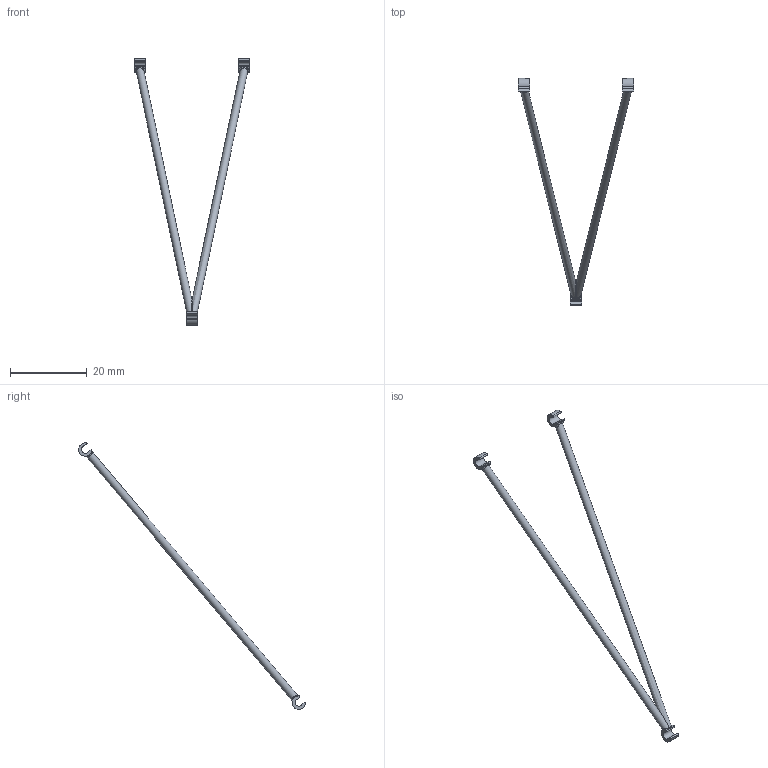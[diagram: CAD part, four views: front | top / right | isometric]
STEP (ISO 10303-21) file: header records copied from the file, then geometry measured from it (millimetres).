
FILE_DESCRIPTION(/* description */ ('','CAx-IF Rec.Pracs.---Representation and Presentation of Product Manufacturing Information (PMI)---4.0---2014-10-13'),/* implementation_level */ '2;1');
FILE_NAME(/* name */ '20elcomaststay103.step',/* time_stamp */ '2025-03-10T16:18:45+11:00',/* author */ (''),/* organization */ (''),/* preprocessor_version */ 'ST-DEVELOPER v20',/* originating_system */ 'Autodesk Translation Framework v13.20.0.188',/* authorisation */ '');
FILE_SCHEMA (('AP242_MANAGED_MODEL_BASED_3D_ENGINEERING_MIM_LF { 1 0 10303 442 1 1 4 }'));
Length unit declared in the file: millimetre
Products named in the file (2): Elco Radar Mast solid; Component1
Assembly tree (1 placements, depth 2):
  Elco Radar Mast solid
    Component1
Bounding box: 30.21 x 59.13 x 69.45 mm (x, y, z)
Volume: 568.2 mm3; surface area: 1187.7 mm2
Topology: 1 solids, 1 shells, 40 faces, 110 edges, 70 vertices
Faces by surface type: cylinder 21, plane 12, bspline 7
Full cylindrical faces by diameter (mm): 2 x2
Entity records: 2213 total; most frequent: CARTESIAN_POINT 1160, ORIENTED_EDGE 218, DIRECTION 207, EDGE_CURVE 109, AXIS2_PLACEMENT_3D 84, VERTEX_POINT 71, CIRCLE 44, FACE_OUTER_BOUND 40
